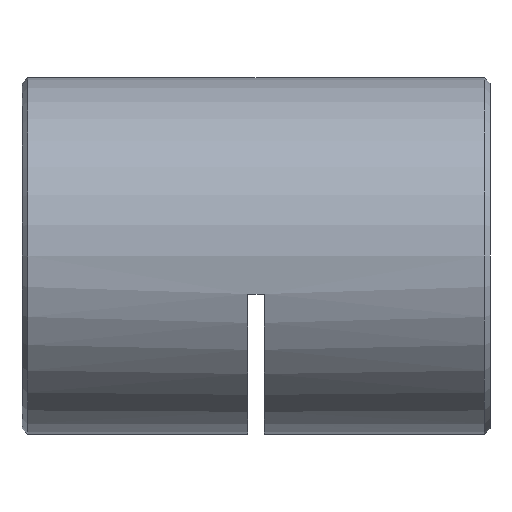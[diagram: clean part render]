
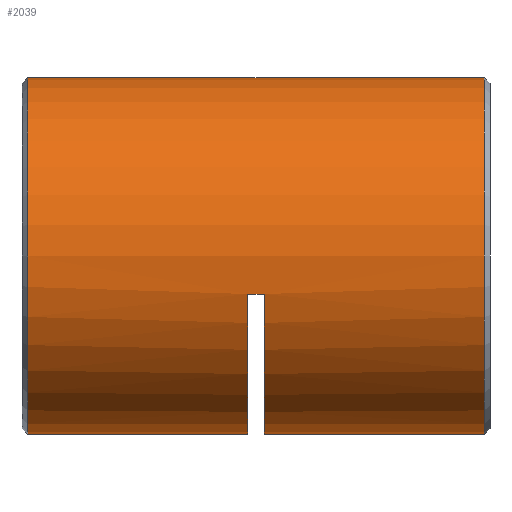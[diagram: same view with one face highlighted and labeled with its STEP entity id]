
A CAD part, left-side view. The second image highlights one B-rep face of the part: STEP entity #2039.
In plain terms, the highlighted cylindrical face has radius 16 mm (diameter 32 mm), a partial arc.
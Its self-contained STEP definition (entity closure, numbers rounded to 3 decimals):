
#99 = DIRECTION ( 'NONE',  ( 0., -1., 0. ) ) ;
#248 = AXIS2_PLACEMENT_3D ( 'NONE', #5597, #3224, #3249 ) ;
#427 = CARTESIAN_POINT ( 'NONE',  ( -15.632, 21.25, -3.413 ) ) ;
#502 = ORIENTED_EDGE ( 'NONE', *, *, #4543, .T. ) ;
#676 = LINE ( 'NONE', #2510, #6310 ) ;
#824 = CYLINDRICAL_SURFACE ( 'NONE', #1841, 16. ) ;
#907 = LINE ( 'NONE', #4008, #5297 ) ;
#1036 = DIRECTION ( 'NONE',  ( 0., -1., 0. ) ) ;
#1042 = EDGE_CURVE ( 'NONE', #4319, #4235, #4554, .T. ) ;
#1110 = EDGE_CURVE ( 'NONE', #4235, #1366, #3175, .T. ) ;
#1205 = AXIS2_PLACEMENT_3D ( 'NONE', #4482, #2008, #4940 ) ;
#1366 = VERTEX_POINT ( 'NONE', #2434 ) ;
#1522 = ORIENTED_EDGE ( 'NONE', *, *, #4310, .T. ) ;
#1528 = ORIENTED_EDGE ( 'NONE', *, *, #1110, .T. ) ;
#1841 = AXIS2_PLACEMENT_3D ( 'NONE', #5811, #6265, #3332 ) ;
#1875 = VERTEX_POINT ( 'NONE', #4668 ) ;
#1899 = DIRECTION ( 'NONE',  ( 0., 0., 1. ) ) ;
#1930 = VERTEX_POINT ( 'NONE', #3735 ) ;
#2008 = DIRECTION ( 'NONE',  ( 0., -1., 0. ) ) ;
#2037 = DIRECTION ( 'NONE',  ( 0., -1., 0. ) ) ;
#2039 = ADVANCED_FACE ( 'NONE', ( #3775 ), #824, .T. ) ;
#2250 = EDGE_CURVE ( 'NONE', #3881, #5848, #907, .T. ) ;
#2276 = CARTESIAN_POINT ( 'NONE',  ( 0., 42.5, -16. ) ) ;
#2287 = CARTESIAN_POINT ( 'NONE',  ( -15.632, 22., -3.413 ) ) ;
#2310 = VECTOR ( 'NONE', #3753, 1000. ) ;
#2434 = CARTESIAN_POINT ( 'NONE',  ( 0., 20.5, -16. ) ) ;
#2510 = CARTESIAN_POINT ( 'NONE',  ( 0., 42.5, -16. ) ) ;
#2574 = CARTESIAN_POINT ( 'NONE',  ( 0., 41.75, 0. ) ) ;
#2856 = VERTEX_POINT ( 'NONE', #3850 ) ;
#2893 = DIRECTION ( 'NONE',  ( 0., 1., 0. ) ) ;
#3038 = EDGE_CURVE ( 'NONE', #1875, #2856, #676, .T. ) ;
#3152 = EDGE_CURVE ( 'NONE', #3881, #1875, #6368, .T. ) ;
#3175 = CIRCLE ( 'NONE', #1205, 16. ) ;
#3224 = DIRECTION ( 'NONE',  ( 0., -1., 0. ) ) ;
#3249 = DIRECTION ( 'NONE',  ( 0., 0., -1. ) ) ;
#3256 = EDGE_CURVE ( 'NONE', #4319, #2856, #5611, .T. ) ;
#3332 = DIRECTION ( 'NONE',  ( 0., 0., -1. ) ) ;
#3341 = ORIENTED_EDGE ( 'NONE', *, *, #2250, .F. ) ;
#3411 = ORIENTED_EDGE ( 'NONE', *, *, #3038, .T. ) ;
#3476 = ORIENTED_EDGE ( 'NONE', *, *, #1042, .T. ) ;
#3735 = CARTESIAN_POINT ( 'NONE',  ( 0., 0.75, -16. ) ) ;
#3753 = DIRECTION ( 'NONE',  ( 0., -1., 0. ) ) ;
#3775 = FACE_OUTER_BOUND ( 'NONE', #5585, .T. ) ;
#3792 = CARTESIAN_POINT ( 'NONE',  ( 0., 41.75, 16. ) ) ;
#3850 = CARTESIAN_POINT ( 'NONE',  ( 0., 22., -16. ) ) ;
#3881 = VERTEX_POINT ( 'NONE', #3792 ) ;
#4008 = CARTESIAN_POINT ( 'NONE',  ( 0., 42.5, 16. ) ) ;
#4235 = VERTEX_POINT ( 'NONE', #4725 ) ;
#4303 = CIRCLE ( 'NONE', #6283, 16. ) ;
#4310 = EDGE_CURVE ( 'NONE', #1366, #1930, #4902, .T. ) ;
#4319 = VERTEX_POINT ( 'NONE', #2287 ) ;
#4482 = CARTESIAN_POINT ( 'NONE',  ( 0., 20.5, 0. ) ) ;
#4543 = EDGE_CURVE ( 'NONE', #1930, #5848, #4303, .T. ) ;
#4554 = LINE ( 'NONE', #427, #5376 ) ;
#4573 = DIRECTION ( 'NONE',  ( 0., 0., -1. ) ) ;
#4642 = ORIENTED_EDGE ( 'NONE', *, *, #3256, .F. ) ;
#4668 = CARTESIAN_POINT ( 'NONE',  ( 0., 41.75, -16. ) ) ;
#4725 = CARTESIAN_POINT ( 'NONE',  ( -15.632, 20.5, -3.413 ) ) ;
#4832 = CARTESIAN_POINT ( 'NONE',  ( 0., 0.75, 0. ) ) ;
#4902 = LINE ( 'NONE', #2276, #2310 ) ;
#4940 = DIRECTION ( 'NONE',  ( 0., 0., -1. ) ) ;
#5174 = AXIS2_PLACEMENT_3D ( 'NONE', #2574, #99, #4573 ) ;
#5297 = VECTOR ( 'NONE', #1036, 1000. ) ;
#5376 = VECTOR ( 'NONE', #5407, 1000. ) ;
#5407 = DIRECTION ( 'NONE',  ( 0., -1., 0. ) ) ;
#5413 = ORIENTED_EDGE ( 'NONE', *, *, #3152, .T. ) ;
#5585 = EDGE_LOOP ( 'NONE', ( #3341, #5413, #3411, #4642, #3476, #1528, #1522, #502 ) ) ;
#5597 = CARTESIAN_POINT ( 'NONE',  ( 0., 22., 0. ) ) ;
#5611 = CIRCLE ( 'NONE', #248, 16. ) ;
#5811 = CARTESIAN_POINT ( 'NONE',  ( 0., 42.5, 0. ) ) ;
#5848 = VERTEX_POINT ( 'NONE', #6290 ) ;
#6265 = DIRECTION ( 'NONE',  ( 0., -1., 0. ) ) ;
#6283 = AXIS2_PLACEMENT_3D ( 'NONE', #4832, #2893, #1899 ) ;
#6290 = CARTESIAN_POINT ( 'NONE',  ( 0., 0.75, 16. ) ) ;
#6310 = VECTOR ( 'NONE', #2037, 1000. ) ;
#6368 = CIRCLE ( 'NONE', #5174, 16. ) ;
